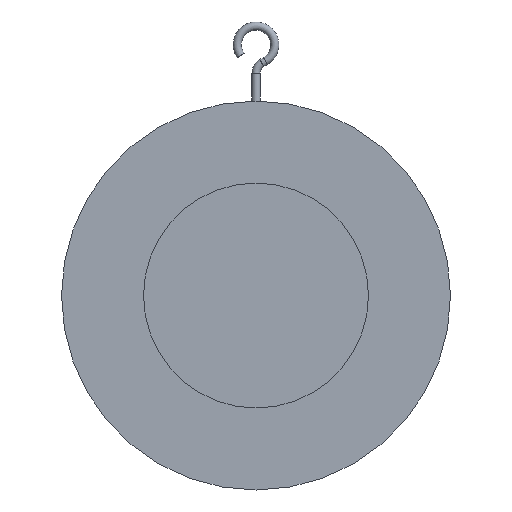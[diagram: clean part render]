
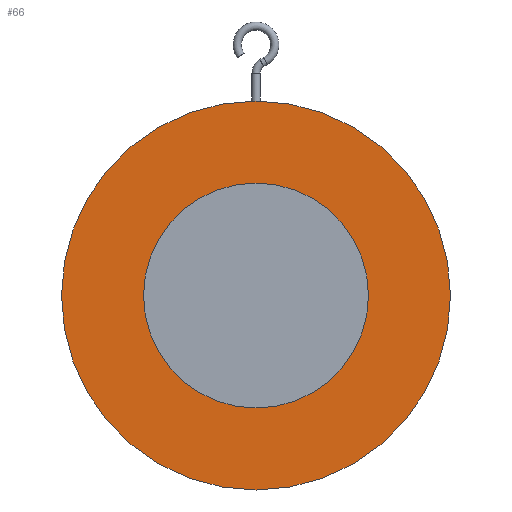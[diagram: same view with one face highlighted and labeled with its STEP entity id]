
A CAD part, front view. The second image highlights one B-rep face of the part: STEP entity #66.
In plain terms, the highlighted planar face has unit normal (0, -1, 0).
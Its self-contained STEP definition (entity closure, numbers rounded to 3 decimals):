
#66=ADVANCED_FACE('',(#203,#205),#207,.T.);
#203=FACE_BOUND('',#204,.T.);
#204=EDGE_LOOP('',(#315));
#205=FACE_BOUND('',#206,.T.);
#206=EDGE_LOOP('',(#316));
#207=PLANE('',#208);
#208=AXIS2_PLACEMENT_3D('',#209,#210,#211);
#209=CARTESIAN_POINT('',(0.,-13.,0.));
#210=DIRECTION('',(0.,-1.,0.));
#211=DIRECTION('',(0.,0.,1.));
#315=ORIENTED_EDGE('',*,*,#356,.F.);
#316=ORIENTED_EDGE('',*,*,#358,.T.);
#356=EDGE_CURVE('',#383,#383,#384,.T.);
#358=EDGE_CURVE('',#387,#387,#388,.T.);
#383=VERTEX_POINT('',#623);
#384=CIRCLE('',#624,166.);
#387=VERTEX_POINT('',#633);
#388=CIRCLE('',#634,96.);
#623=CARTESIAN_POINT('',(0.,-13.,166.));
#624=AXIS2_PLACEMENT_3D('',#625,#626,#627);
#625=CARTESIAN_POINT('',(0.,-13.,0.));
#626=DIRECTION('',(0.,1.,0.));
#627=DIRECTION('',(0.,0.,1.));
#633=CARTESIAN_POINT('',(0.,-13.,96.));
#634=AXIS2_PLACEMENT_3D('',#635,#636,#637);
#635=CARTESIAN_POINT('',(0.,-13.,0.));
#636=DIRECTION('',(0.,1.,0.));
#637=DIRECTION('',(0.,0.,1.));
